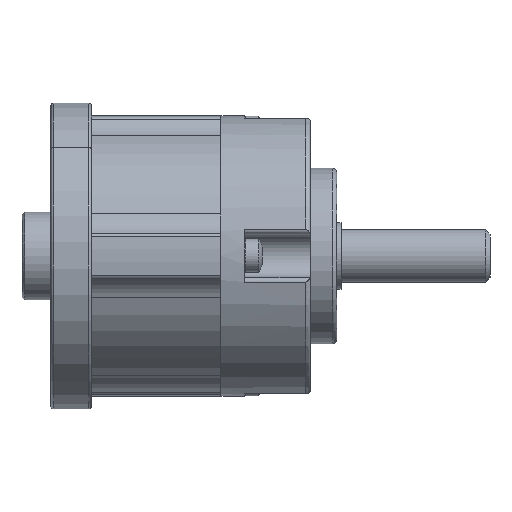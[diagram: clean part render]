
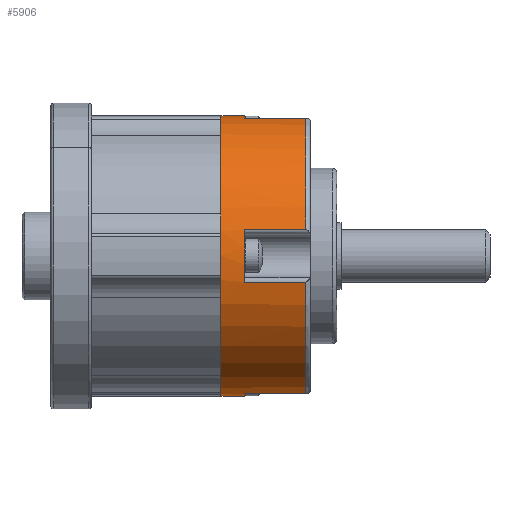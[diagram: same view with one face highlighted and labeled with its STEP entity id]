
A CAD part, top view. The second image highlights one B-rep face of the part: STEP entity #5906.
In plain terms, the highlighted cylindrical face has radius 16 mm (diameter 32 mm), a partial arc.
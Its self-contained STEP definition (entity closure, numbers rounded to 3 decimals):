
#73=CARTESIAN_POINT('',(0.,0.,0.));
#74=DIRECTION('',(1.,0.,0.));
#75=DIRECTION('',(0.,1.,0.));
#76=AXIS2_PLACEMENT_3D('',#73,#74,#75);
#190=CARTESIAN_POINT('',(2.7,0.,0.));
#191=DIRECTION('',(-1.,0.,0.));
#192=DIRECTION('',(0.,0.982,0.188));
#193=AXIS2_PLACEMENT_3D('',#190,#191,#192);
#290=CARTESIAN_POINT('',(2.7,0.,0.));
#291=DIRECTION('',(-1.,0.,0.));
#292=DIRECTION('',(0.,-0.187,0.982));
#293=AXIS2_PLACEMENT_3D('',#290,#291,#292);
#337=CARTESIAN_POINT('',(2.7,0.,0.));
#338=DIRECTION('',(-1.,0.,0.));
#339=DIRECTION('',(0.,-1.,0.));
#340=AXIS2_PLACEMENT_3D('',#337,#338,#339);
#2714=CARTESIAN_POINT('',(9.7,0.,0.));
#2715=DIRECTION('',(-1.,0.,0.));
#2716=DIRECTION('',(0.,-0.982,0.188));
#2717=AXIS2_PLACEMENT_3D('',#2714,#2715,#2716);
#2741=CARTESIAN_POINT('',(9.7,0.,0.));
#2742=DIRECTION('',(-1.,0.,0.));
#2743=DIRECTION('',(0.,0.188,0.982));
#2744=AXIS2_PLACEMENT_3D('',#2741,#2742,#2743);
#2937=DIRECTION('',(-1.,0.,0.));
#2938=VECTOR('',#2937,2.7);
#2939=CARTESIAN_POINT('',(2.7,16.,0.));
#2940=LINE('',#2939,#2938);
#2944=DIRECTION('',(-1.,0.,0.));
#2945=VECTOR('',#2944,2.7);
#2946=CARTESIAN_POINT('',(2.7,-16.,0.));
#2947=LINE('',#2946,#2945);
#2979=DIRECTION('',(1.,0.,0.));
#2980=VECTOR('',#2979,7.);
#2981=CARTESIAN_POINT('',(2.7,15.716,3.));
#2982=LINE('',#2981,#2980);
#2986=DIRECTION('',(1.,0.,0.));
#2987=VECTOR('',#2986,7.);
#2988=CARTESIAN_POINT('',(2.7,3.,15.716));
#2989=LINE('',#2988,#2987);
#2993=DIRECTION('',(1.,0.,0.));
#2994=VECTOR('',#2993,7.);
#2995=CARTESIAN_POINT('',(2.7,-3.,15.716));
#2996=LINE('',#2995,#2994);
#3000=DIRECTION('',(1.,0.,0.));
#3001=VECTOR('',#3000,7.);
#3002=CARTESIAN_POINT('',(2.7,-15.716,3.));
#3003=LINE('',#3002,#3001);
#3101=CARTESIAN_POINT('',(0.,16.,0.));
#3102=CARTESIAN_POINT('',(0.,-16.,0.));
#3103=VERTEX_POINT('',#3101);
#3104=VERTEX_POINT('',#3102);
#3201=CARTESIAN_POINT('',(2.7,-16.,0.));
#3202=VERTEX_POINT('',#3201);
#3219=CARTESIAN_POINT('',(2.7,16.,0.));
#3220=VERTEX_POINT('',#3219);
#3373=CARTESIAN_POINT('',(2.7,-3.,15.716));
#3374=CARTESIAN_POINT('',(9.7,-3.,15.716));
#3375=VERTEX_POINT('',#3373);
#3376=VERTEX_POINT('',#3374);
#3377=CARTESIAN_POINT('',(2.7,3.,15.716));
#3378=CARTESIAN_POINT('',(9.7,3.,15.716));
#3379=VERTEX_POINT('',#3377);
#3380=VERTEX_POINT('',#3378);
#3385=CARTESIAN_POINT('',(9.7,-15.716,3.));
#3386=VERTEX_POINT('',#3385);
#3389=CARTESIAN_POINT('',(9.7,15.716,3.));
#3390=VERTEX_POINT('',#3389);
#3413=CARTESIAN_POINT('',(2.7,15.716,3.));
#3414=VERTEX_POINT('',#3413);
#3415=CARTESIAN_POINT('',(2.7,-15.716,3.));
#3416=VERTEX_POINT('',#3415);
#5885=CARTESIAN_POINT('',(-3.39,0.,0.));
#5886=DIRECTION('',(1.,0.,0.));
#5887=DIRECTION('',(0.,-1.,0.));
#5888=AXIS2_PLACEMENT_3D('',#5885,#5886,#5887);
#5889=CYLINDRICAL_SURFACE('',#5888,16.);
#5890=ORIENTED_EDGE('',*,*,#3661,.F.);
#5892=ORIENTED_EDGE('',*,*,#5891,.T.);
#5893=ORIENTED_EDGE('',*,*,#5690,.F.);
#5895=ORIENTED_EDGE('',*,*,#5894,.F.);
#5896=ORIENTED_EDGE('',*,*,#3714,.F.);
#5897=ORIENTED_EDGE('',*,*,#5661,.T.);
#5898=ORIENTED_EDGE('',*,*,#5678,.F.);
#5899=ORIENTED_EDGE('',*,*,#5736,.F.);
#5900=ORIENTED_EDGE('',*,*,#3736,.F.);
#5901=ORIENTED_EDGE('',*,*,#5814,.T.);
#5902=ORIENTED_EDGE('',*,*,#3596,.F.);
#5903=ORIENTED_EDGE('',*,*,#5811,.F.);
#5904=EDGE_LOOP('',(#5890,#5892,#5893,#5895,#5896,#5897,#5898,#5899,#5900,#5901,
#5902,#5903));
#5905=FACE_OUTER_BOUND('',#5904,.F.);
#77=CIRCLE('',#76,16.);
#194=CIRCLE('',#193,16.);
#294=CIRCLE('',#293,16.);
#341=CIRCLE('',#340,16.);
#2718=CIRCLE('',#2717,16.);
#2745=CIRCLE('',#2744,16.);
#3596=EDGE_CURVE('',#3103,#3104,#77,.T.);
#3661=EDGE_CURVE('',#3414,#3220,#194,.T.);
#3714=EDGE_CURVE('',#3375,#3379,#294,.T.);
#3736=EDGE_CURVE('',#3202,#3416,#341,.T.);
#5661=EDGE_CURVE('',#3375,#3376,#2996,.T.);
#5678=EDGE_CURVE('',#3386,#3376,#2718,.T.);
#5690=EDGE_CURVE('',#3380,#3390,#2745,.T.);
#5736=EDGE_CURVE('',#3416,#3386,#3003,.T.);
#5811=EDGE_CURVE('',#3220,#3103,#2940,.T.);
#5814=EDGE_CURVE('',#3202,#3104,#2947,.T.);
#5891=EDGE_CURVE('',#3414,#3390,#2982,.T.);
#5894=EDGE_CURVE('',#3379,#3380,#2989,.T.);
#5906=ADVANCED_FACE('',(#5905),#5889,.T.);
